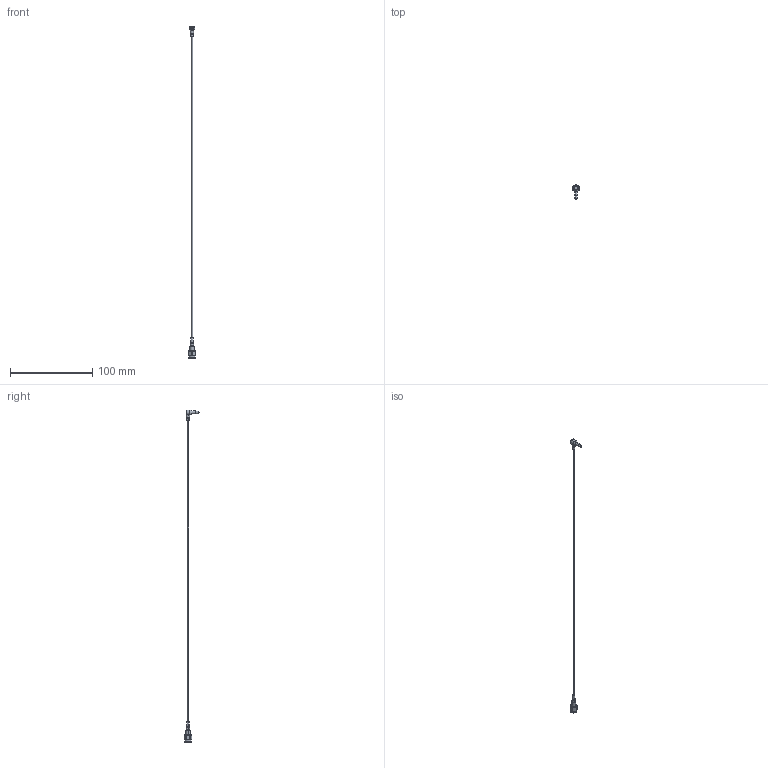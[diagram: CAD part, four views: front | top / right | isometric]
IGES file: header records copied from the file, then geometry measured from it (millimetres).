
Start section: SolidWorks IGES file using analytic representation for surfaces
Global section: file name: C:\3dwork\Toida\アダプタ関連　3Dモデル\90582\90582-0400 MHF-SW23 SMA ADAPTER CABLE.IGS; native system: SolidWorks 2017; preprocessor: SolidWorks 2017; author: E0556; date: 200609.161122; units: millimetre
Bounding box: 8 x 18.7 x 402.9 mm (x, y, z)
Surface area: 2454.1 mm2 (no closed solid volume)
Topology: 0 solids, 0 shells, 155 faces, 1660 edges, 1656 vertices
Faces by surface type: revolution 80, bspline 75
